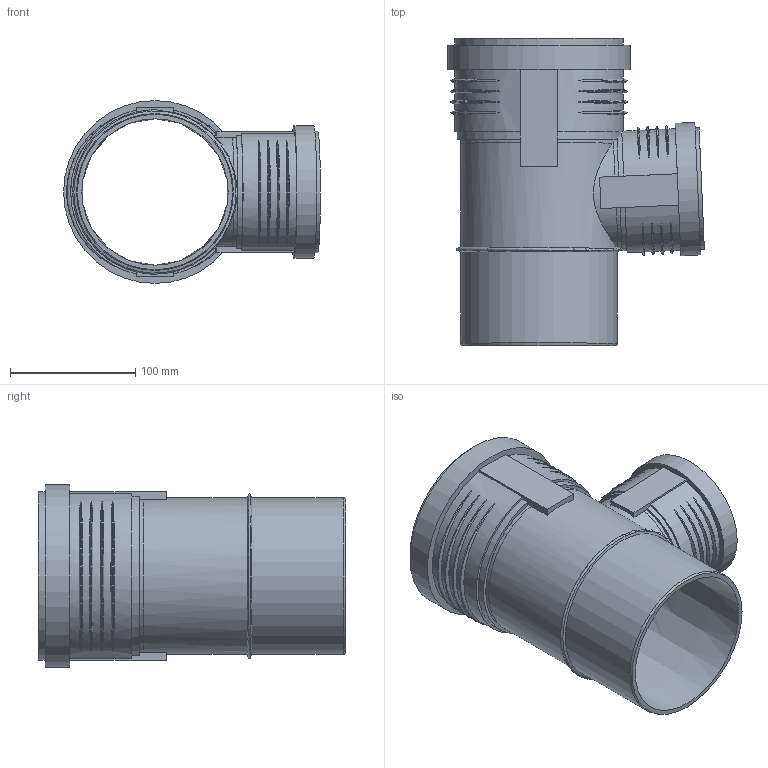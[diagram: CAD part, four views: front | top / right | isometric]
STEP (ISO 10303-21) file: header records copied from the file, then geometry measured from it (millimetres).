
FILE_DESCRIPTION(/* description */ (''),/* implementation_level */ '2;1');
FILE_NAME(/* name */ 'Z:\Geberit\Export\NewStep\390650.stp',/* time_stamp */ '2014-04-02T08:16:02+02:00',/* author */ ('ML'),/* organization */ (''),/* preprocessor_version */ 'ST-DEVELOPER v15.2',/* originating_system */ 'Autodesk Inventor 2014',/* authorisation */ '');
FILE_SCHEMA (('AUTOMOTIVE_DESIGN { 1 0 10303 214 3 1 1 }'));
Length unit declared in the file: millimetre
Products named in the file (4): 861611; 861403; 861625; 390650
Bounding box: 204.95 x 245.2 x 145.9 mm (x, y, z)
Volume: 510295.6 mm3; surface area: 271188.2 mm2
Topology: 3 solids, 3 shells, 124 faces, 304 edges, 212 vertices
Faces by surface type: torus 50, plane 37, cylinder 31, cone 6
Full cylindrical faces by diameter (mm): 84 x1, 84.2 x1, 90.2 x2, 91.2 x2, 97.2 x1, 99.8 x1, 105.8 x1, 117 x1, 125.2 x2, 126.4 x2, 134.6 x1, 137.7 x1, 145.9 x1
Entity records: 5205 total; most frequent: CARTESIAN_POINT 2278, ORIENTED_EDGE 546, DIRECTION 528, EDGE_CURVE 273, AXIS2_PLACEMENT_3D 228, VERTEX_POINT 205, EDGE_LOOP 182, STYLED_ITEM 125
